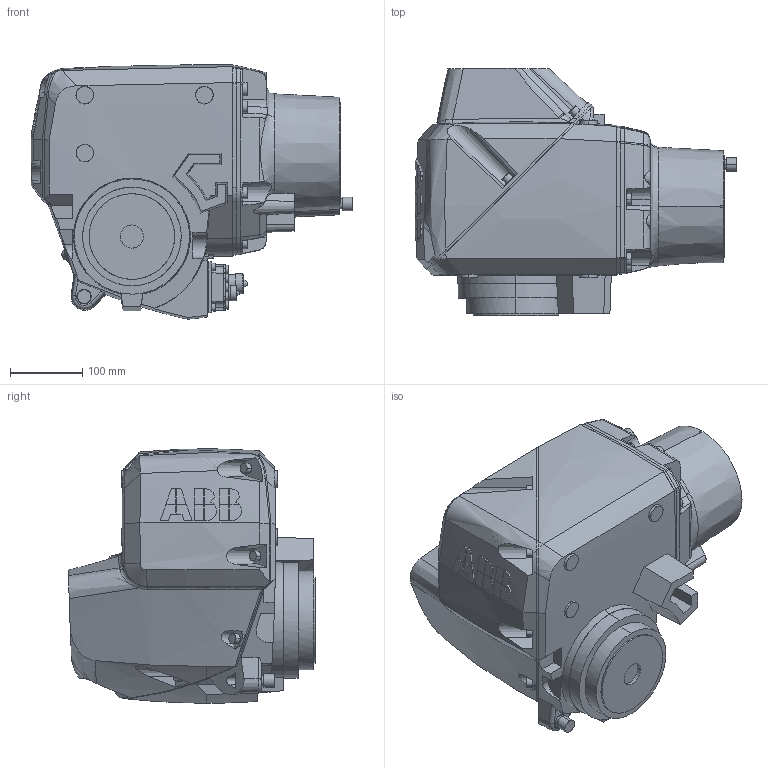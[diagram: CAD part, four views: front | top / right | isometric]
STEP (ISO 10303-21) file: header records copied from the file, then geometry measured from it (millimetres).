
FILE_DESCRIPTION (( 'STEP AP214' ), '1' );
FILE_NAME ('IRB2600_20-165_LINK3_CAD_rev02.STEP', '2016-12-02T11:52:18', ( 'ABB' ), ( 'ABB' ), 'SwSTEP 2.0', 'SolidWorks 2014', '' );
FILE_SCHEMA (( 'AUTOMOTIVE_DESIGN' ));
Length unit declared in the file: millimetre
Products named in the file (1): IRB2600_20-165_LINK3_CAD_rev02
Bounding box: 444.23 x 340.66 x 351.14 mm (x, y, z)
Volume: 23652841.8 mm3; surface area: 644880.2 mm2
Topology: 2 solids, 17 shells, 800 faces, 2239 edges, 1532 vertices
Faces by surface type: plane 400, cylinder 158, bspline 123, cone 118, torus 1
Entity records: 48327 total; most frequent: CARTESIAN_POINT 29087, ORIENTED_EDGE 4454, DIRECTION 2558, EDGE_CURVE 2227, VERTEX_POINT 1532, B_SPLINE_CURVE_WITH_KNOTS 1116, LINE 930, VECTOR 930
